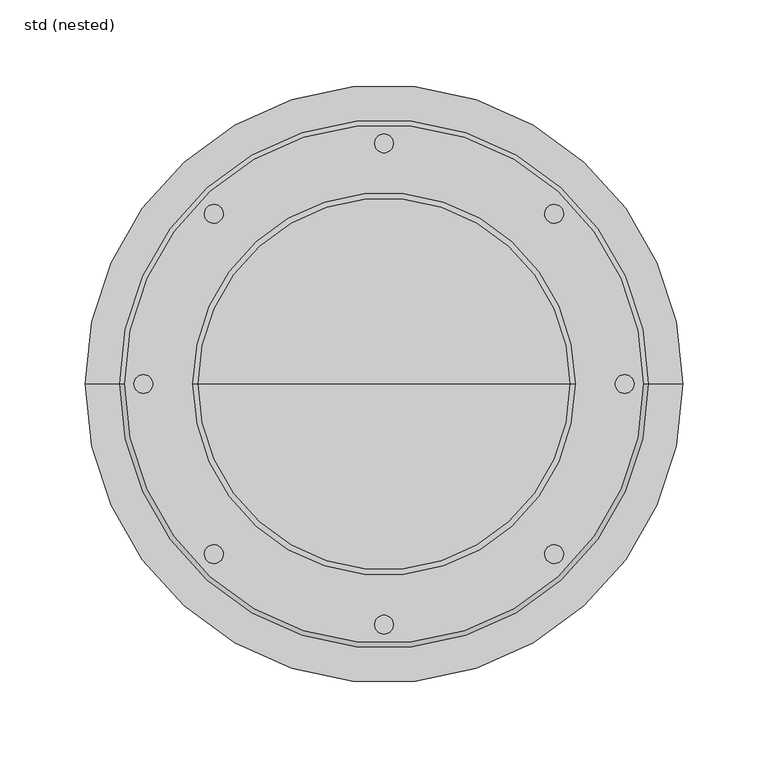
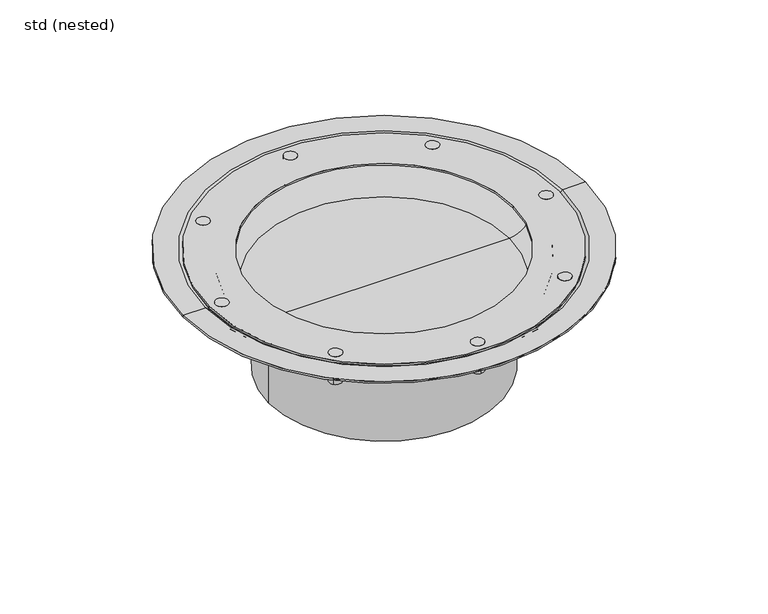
"""IFC4 building model written with IfcOpenShell, lengths in millimetres: sanitary terminal geometry, ZZZ_do not use_PF_GEN_UN_round telescopic gully top_ACO : std (nested)."""

from ifc_helpers import new_model, si_unit, point, frame, frame_2d, origin, origin_2d, place, context, project, spatial, polyline, circle_curve, ellipse_curve, trimmed, segment, composite_curve, outline, extrude, source, transform, mapped, element, save
from ifc_brep_helpers import plane_surface, cylinder_surface, revolved_surface, advanced_brep


def std_nested_45a2f4f4(model_context):
    return source(origin(), model_context, "Body", "SolidModel", [
        extrude(outline(composite_curve([segment(trimmed(circle_curve(frame_2d((-99.7020561, -99.7020561)), 5.5), [point((-103.5911434, -103.5911434))], [point((-95.8129689, -95.8129689))], False, "CARTESIAN"), True, "CONTINUOUS"), segment(trimmed(circle_curve(frame_2d((-99.7020561, -99.7020561)), 5.5), [point((-95.8129689, -95.8129689))], [point((-103.5911434, -103.5911434))], False, "CARTESIAN"), True, "CONTINUOUS")], self_intersect=False)), frame((0.0, 0.0, -25.7), z_axis=(0.0, 0.0, 1.0), x_axis=(1.0, 0.0, 0.0)), (0.0, 0.0, 1.0), 25.7),
        extrude(outline(composite_curve([segment(trimmed(circle_curve(frame_2d((-141.0, 0.0)), 5.5), [point((-146.5, 0.0))], [point((-135.5, 0.0))], False, "CARTESIAN"), True, "CONTINUOUS"), segment(trimmed(circle_curve(frame_2d((-141.0, 0.0)), 5.5), [point((-135.5, 0.0))], [point((-146.5, 0.0))], False, "CARTESIAN"), True, "CONTINUOUS")], self_intersect=False)), frame((0.0, 0.0, -25.7), z_axis=(0.0, 0.0, 1.0), x_axis=(1.0, 0.0, 0.0)), (0.0, 0.0, 1.0), 25.7),
        extrude(outline(composite_curve([segment(trimmed(circle_curve(frame_2d((-99.7020561, 99.7020561)), 5.5), [point((-103.5911434, 103.5911434))], [point((-95.8129689, 95.8129689))], False, "CARTESIAN"), True, "CONTINUOUS"), segment(trimmed(circle_curve(frame_2d((-99.7020561, 99.7020561)), 5.5), [point((-95.8129689, 95.8129689))], [point((-103.5911434, 103.5911434))], False, "CARTESIAN"), True, "CONTINUOUS")], self_intersect=False)), frame((0.0, 0.0, -25.7), z_axis=(0.0, 0.0, 1.0), x_axis=(1.0, 0.0, 0.0)), (0.0, 0.0, 1.0), 25.7),
        extrude(outline(composite_curve([segment(trimmed(circle_curve(frame_2d((0.0, 141.0)), 5.5), [point((0.0, 146.5))], [point((0.0, 135.5))], False, "CARTESIAN"), True, "CONTINUOUS"), segment(trimmed(circle_curve(frame_2d((0.0, 141.0)), 5.5), [point((0.0, 135.5))], [point((0.0, 146.5))], False, "CARTESIAN"), True, "CONTINUOUS")], self_intersect=False)), frame((0.0, 0.0, -25.7), z_axis=(0.0, 0.0, 1.0), x_axis=(1.0, 0.0, 0.0)), (0.0, 0.0, 1.0), 25.7),
        extrude(outline(composite_curve([segment(trimmed(circle_curve(frame_2d((99.7020561, 99.7020561)), 5.5), [point((103.5911434, 103.5911434))], [point((95.8129689, 95.8129689))], False, "CARTESIAN"), True, "CONTINUOUS"), segment(trimmed(circle_curve(frame_2d((99.7020561, 99.7020561)), 5.5), [point((95.8129689, 95.8129689))], [point((103.5911434, 103.5911434))], False, "CARTESIAN"), True, "CONTINUOUS")], self_intersect=False)), frame((0.0, 0.0, -25.7), z_axis=(0.0, 0.0, 1.0), x_axis=(1.0, 0.0, 0.0)), (0.0, 0.0, 1.0), 25.7),
        extrude(outline(composite_curve([segment(trimmed(circle_curve(frame_2d((141.0, 0.0)), 5.5), [point((146.5, 0.0))], [point((135.5, 0.0))], False, "CARTESIAN"), True, "CONTINUOUS"), segment(trimmed(circle_curve(frame_2d((141.0, 0.0)), 5.5), [point((135.5, 0.0))], [point((146.5, 0.0))], False, "CARTESIAN"), True, "CONTINUOUS")], self_intersect=False)), frame((0.0, 0.0, -25.7), z_axis=(0.0, 0.0, 1.0), x_axis=(1.0, 0.0, 0.0)), (0.0, 0.0, 1.0), 25.7),
        extrude(outline(composite_curve([segment(trimmed(circle_curve(frame_2d((99.7020561, -99.7020561)), 5.5), [point((103.5911434, -103.5911434))], [point((95.8129689, -95.8129689))], False, "CARTESIAN"), True, "CONTINUOUS"), segment(trimmed(circle_curve(frame_2d((99.7020561, -99.7020561)), 5.5), [point((95.8129689, -95.8129689))], [point((103.5911434, -103.5911434))], False, "CARTESIAN"), True, "CONTINUOUS")], self_intersect=False)), frame((0.0, 0.0, -25.7), z_axis=(0.0, 0.0, 1.0), x_axis=(1.0, 0.0, 0.0)), (0.0, 0.0, 1.0), 25.7),
        extrude(outline(composite_curve([segment(trimmed(circle_curve(frame_2d((0.0, -141.0)), 5.5), [point((0.0, -146.5))], [point((0.0, -135.5))], False, "CARTESIAN"), True, "CONTINUOUS"), segment(trimmed(circle_curve(frame_2d((0.0, -141.0)), 5.5), [point((0.0, -135.5))], [point((0.0, -146.5))], False, "CARTESIAN"), True, "CONTINUOUS")], self_intersect=False)), frame((0.0, 0.0, -25.7), z_axis=(0.0, 0.0, 1.0), x_axis=(1.0, 0.0, 0.0)), (0.0, 0.0, 1.0), 25.7),
        advanced_brep(
        [(175.0, 0.0, -1.5), (-175.0, 0.0, -1.5), (-175.0, 0.0, 0.0), (175.0, 0.0, 0.0), (155.5, 0.0, -1.5), (-155.5, 0.0, -1.5), (151.5, 0.0, -5.5), (-151.5, 0.0, -5.5), (128.75, 0.0, -5.5), (-128.75, 0.0, -5.5), (128.75, 0.0, -10.0), (-128.75, 0.0, -10.0), (108.75, 0.0, -30.0), (-108.75, 0.0, -30.0), (100.25, 0.0, -30.0), (-100.25, 0.0, -30.0), (108.75, 0.0, -28.5), (-108.75, 0.0, -28.5), (0.0, 0.0, -28.5), (127.25, 0.0, -10.0), (-127.25, 0.0, -10.0), (127.25, 0.0, -4.0), (-127.25, 0.0, -4.0), (150.8786797, 0.0, -4.0), (-150.8786797, 0.0, -4.0), (154.8786797, 0.0, 0.0), (-154.8786797, 0.0, 0.0), (-100.25, 0.0, -41.5), (100.25, 0.0, -41.5)],
        [
            (0, 1, circle_curve(frame((0.0, 0.0, -1.5), z_axis=(0.0, 0.0, 1.0), x_axis=(-1.0, 0.0, 0.0)), 175.0)),
            (1, 2),
            (2, 3, circle_curve(frame((0.0, 0.0, 0.0), z_axis=(0.0, 0.0, -1.0), x_axis=(-1.0, 0.0, 0.0)), 175.0)),
            (3, 0),
            (1, 0, circle_curve(frame((0.0, 0.0, -1.5), z_axis=(0.0, 0.0, 1.0), x_axis=(-1.0, 0.0, 0.0)), 175.0)),
            (3, 2, circle_curve(frame((0.0, 0.0, 0.0), z_axis=(0.0, 0.0, -1.0), x_axis=(-1.0, 0.0, 0.0)), 175.0)),
            (0, 4),
            (4, 5, circle_curve(frame((0.0, 0.0, -1.5), z_axis=(0.0, 0.0, 1.0), x_axis=(-1.0, 0.0, 0.0)), 155.5)),
            (5, 1),
            (5, 4, circle_curve(frame((0.0, 0.0, -1.5), z_axis=(0.0, 0.0, 1.0), x_axis=(-1.0, 0.0, 0.0)), 155.5)),
            (4, 6),
            (6, 7, circle_curve(frame((0.0, 0.0, -5.5), z_axis=(0.0, 0.0, 1.0), x_axis=(-1.0, 0.0, 0.0)), 151.5)),
            (7, 5),
            (7, 6, circle_curve(frame((0.0, 0.0, -5.5), z_axis=(0.0, 0.0, 1.0), x_axis=(-1.0, 0.0, 0.0)), 151.5)),
            (6, 8),
            (8, 9, circle_curve(frame((0.0, 0.0, -5.5), z_axis=(0.0, 0.0, 1.0), x_axis=(-1.0, 0.0, 0.0)), 128.75)),
            (9, 7),
            (9, 8, circle_curve(frame((0.0, 0.0, -5.5), z_axis=(0.0, 0.0, 1.0), x_axis=(-1.0, 0.0, 0.0)), 128.75)),
            (8, 10),
            (10, 11, circle_curve(frame((0.0, 0.0, -10.0), z_axis=(0.0, 0.0, 1.0), x_axis=(-1.0, 0.0, 0.0)), 128.75)),
            (11, 9),
            (11, 10, circle_curve(frame((0.0, 0.0, -10.0), z_axis=(0.0, 0.0, 1.0), x_axis=(-1.0, 0.0, 0.0)), 128.75)),
            (10, 12, circle_curve(frame((108.75, 0.0, -10.0), z_axis=(0.0, 1.0, 0.0), x_axis=(-1.0, 0.0, 0.0)), 20.0)),
            (12, 13, circle_curve(frame((0.0, 0.0, -30.0), z_axis=(0.0, 0.0, 1.0), x_axis=(-1.0, 0.0, 0.0)), 108.75)),
            (13, 11, circle_curve(frame((-108.75, 0.0, -10.0), z_axis=(0.0, 1.0, 0.0), x_axis=(1.0, 0.0, 0.0)), 20.0)),
            (13, 12, circle_curve(frame((0.0, 0.0, -30.0), z_axis=(0.0, 0.0, 1.0), x_axis=(-1.0, 0.0, 0.0)), 108.75)),
            (12, 14),
            (14, 15, circle_curve(frame((0.0, 0.0, -30.0), z_axis=(0.0, 0.0, 1.0), x_axis=(1.0, 0.0, 0.0)), 100.25)),
            (15, 13),
            (15, 14, circle_curve(frame((0.0, 0.0, -30.0), z_axis=(0.0, 0.0, 1.0), x_axis=(1.0, 0.0, 0.0)), 100.25)),
            (16, 17, circle_curve(frame((0.0, 0.0, -28.5), z_axis=(0.0, 0.0, 1.0), x_axis=(-1.0, 0.0, 0.0)), 108.75)),
            (17, 18),
            (18, 16),
            (17, 16, circle_curve(frame((0.0, 0.0, -28.5), z_axis=(0.0, 0.0, 1.0), x_axis=(-1.0, 0.0, 0.0)), 108.75)),
            (16, 19, circle_curve(frame((108.75, 0.0, -10.0), z_axis=(0.0, -1.0, 0.0), x_axis=(-1.0, 0.0, 0.0)), 18.5)),
            (19, 20, circle_curve(frame((0.0, 0.0, -10.0), z_axis=(0.0, 0.0, 1.0), x_axis=(-1.0, 0.0, 0.0)), 127.25)),
            (20, 17, circle_curve(frame((-108.75, 0.0, -10.0), z_axis=(0.0, -1.0, 0.0), x_axis=(1.0, 0.0, 0.0)), 18.5)),
            (20, 19, circle_curve(frame((0.0, 0.0, -10.0), z_axis=(0.0, 0.0, 1.0), x_axis=(-1.0, 0.0, 0.0)), 127.25)),
            (19, 21),
            (21, 22, circle_curve(frame((0.0, 0.0, -4.0), z_axis=(0.0, 0.0, 1.0), x_axis=(-1.0, 0.0, 0.0)), 127.25)),
            (22, 20),
            (22, 21, circle_curve(frame((0.0, 0.0, -4.0), z_axis=(0.0, 0.0, 1.0), x_axis=(-1.0, 0.0, 0.0)), 127.25)),
            (21, 23),
            (23, 24, circle_curve(frame((0.0, 0.0, -4.0), z_axis=(0.0, 0.0, 1.0), x_axis=(-1.0, 0.0, 0.0)), 150.8786797)),
            (24, 22),
            (24, 23, circle_curve(frame((0.0, 0.0, -4.0), z_axis=(0.0, 0.0, 1.0), x_axis=(-1.0, 0.0, 0.0)), 150.8786797)),
            (23, 25),
            (25, 26, circle_curve(frame((0.0, 0.0, 0.0), z_axis=(0.0, 0.0, 1.0), x_axis=(-1.0, 0.0, 0.0)), 154.8786797)),
            (26, 24),
            (26, 25, circle_curve(frame((0.0, 0.0, 0.0), z_axis=(0.0, 0.0, 1.0), x_axis=(-1.0, 0.0, 0.0)), 154.8786797)),
            (2, 26),
            (25, 3),
            (27, 28, circle_curve(frame((0.0, 0.0, -41.5), z_axis=(0.0, 0.0, -1.0), x_axis=(1.0, 0.0, 0.0)), 100.25)),
            (28, 27, circle_curve(frame((0.0, 0.0, -41.5), z_axis=(0.0, 0.0, -1.0), x_axis=(1.0, 0.0, 0.0)), 100.25)),
            (28, 14),
            (15, 27),
        ],
        [
            cylinder_surface(frame((0.0, 0.0, 260.0), z_axis=(0.0, 0.0, -1.0), x_axis=(-1.0, 0.0, 0.0)), 175.0),
            plane_surface(frame((0.0, 0.0, -1.5), z_axis=(0.0, 0.0, -1.0), x_axis=(-1.0, 0.0, 0.0))),
            revolved_surface(polyline([(-155.5, 0.0, -1.5), (-151.5, 0.0, -5.5)]), (0.0, 0.0, 260.0), (0.0, 0.0, -1.0)),
            plane_surface(frame((0.0, 0.0, -5.5), z_axis=(0.0, 0.0, -1.0), x_axis=(-1.0, 0.0, 0.0))),
            cylinder_surface(frame((0.0, 0.0, 260.0), z_axis=(0.0, 0.0, -1.0), x_axis=(-1.0, 0.0, 0.0)), 128.75),
            revolved_surface(trimmed(ellipse_curve(frame((-108.75, 0.0, -10.0), z_axis=(0.0, -1.0, 0.0), x_axis=(1.0, 0.0, 0.0)), 20.0, 20.0), [point((-128.75, 0.0, -10.0))], [point((-108.75, 0.0, -30.0))], True, "CARTESIAN"), (0.0, 0.0, 260.0), (0.0, 0.0, -1.0)),
            plane_surface(frame((0.0, 0.0, -30.0), z_axis=(0.0, 0.0, -1.0), x_axis=(-1.0, 0.0, 0.0))),
            plane_surface(frame((0.0, 0.0, -28.5), z_axis=(0.0, 0.0, 1.0), x_axis=(-1.0, 0.0, 0.0))),
            revolved_surface(trimmed(ellipse_curve(frame((-108.75, 0.0, -10.0), z_axis=(0.0, 1.0, 0.0), x_axis=(1.0, 0.0, 0.0)), 18.5, 18.5), [point((-108.75, 0.0, -28.5))], [point((-127.25, 0.0, -10.0))], True, "CARTESIAN"), (0.0, 0.0, 260.0), (0.0, 0.0, -1.0)),
            revolved_surface(polyline([(-127.25, 0.0, -10.0), (-127.25, 0.0, -4.0)]), (0.0, 0.0, 260.0), (0.0, 0.0, -1.0)),
            plane_surface(frame((0.0, 0.0, -4.0), z_axis=(0.0, 0.0, 1.0), x_axis=(-1.0, 0.0, 0.0))),
            revolved_surface(polyline([(-150.8786797, 0.0, -4.0), (-154.8786797, 0.0, 0.0)]), (0.0, 0.0, 260.0), (0.0, 0.0, -1.0)),
            plane_surface(frame((0.0, 0.0, 0.0), z_axis=(0.0, 0.0, 1.0), x_axis=(-1.0, 0.0, 0.0))),
            plane_surface(frame((100.25, 0.0, -41.5), z_axis=(0.0, 0.0, -1.0), x_axis=(0.0, -1.0, 0.0))),
            cylinder_surface(frame((0.0, 0.0, -41.5), z_axis=(0.0, 0.0, 1.0), x_axis=(1.0, 0.0, 0.0)), 100.25),
        ],
        [
            (0, [[1, 2, 3, 4]]),
            (0, [[-2, 5, -4, 6]]),
            (1, [[-1, 7, 8, 9]]),
            (1, [[-5, -9, 10, -7]]),
            (2, [[-8, 11, 12, 13]]),
            (2, [[-10, -13, 14, -11]]),
            (3, [[-12, 15, 16, 17]]),
            (3, [[-14, -17, 18, -15]]),
            (4, [[-16, 19, 20, 21]]),
            (4, [[-18, -21, 22, -19]]),
            (5, [[-20, 23, 24, 25]]),
            (5, [[-22, -25, 26, -23]]),
            (6, [[-24, 27, 28, 29]]),
            (6, [[-26, -29, 30, -27]]),
            (7, [[31, 32, 33]]),
            (7, [[-32, 34, -33]]),
            (8, [[-31, 35, 36, 37]]),
            (8, [[-34, -37, 38, -35]]),
            (9, [[-36, 39, 40, 41]]),
            (9, [[-38, -41, 42, -39]]),
            (10, [[-40, 43, 44, 45]]),
            (10, [[-42, -45, 46, -43]]),
            (11, [[-44, 47, 48, 49]]),
            (11, [[-46, -49, 50, -47]]),
            (12, [[-3, 51, -48, 52]]),
            (12, [[-6, -52, -50, -51]]),
            (13, [[53, 54]]),
            (14, [[-54, 55, -30, 56]]),
            (14, [[-53, -56, -28, -55]]),
        ],
    ),
        extrude(outline(composite_curve([segment(trimmed(circle_curve(origin_2d(), 152.0), [point((-152.0, 0.0))], [point((152.0, 0.0))], False, "CARTESIAN"), True, "CONTINUOUS"), segment(trimmed(circle_curve(origin_2d(), 152.0), [point((152.0, 0.0))], [point((-152.0, 0.0))], False, "CARTESIAN"), True, "CONTINUOUS")], self_intersect=False), holes=[composite_curve([segment(trimmed(circle_curve(origin_2d(), 112.0), [point((-112.0, 0.0))], [point((112.0, 0.0))], True, "CARTESIAN"), True, "CONTINUOUS"), segment(trimmed(circle_curve(origin_2d(), 112.0), [point((112.0, 0.0))], [point((-112.0, 0.0))], True, "CARTESIAN"), True, "CONTINUOUS")], self_intersect=False)]), frame((0.0, 0.0, -1.5), z_axis=(0.0, 0.0, 1.0), x_axis=(1.0, 0.0, 0.0)), (0.0, 0.0, 1.0), 1.5),
        extrude(outline(composite_curve([segment(trimmed(circle_curve(origin_2d(), 100.0), [point((-100.0, 0.0))], [point((100.0, 0.0))], False, "CARTESIAN"), True, "CONTINUOUS"), segment(trimmed(circle_curve(origin_2d(), 100.0), [point((100.0, 0.0))], [point((-100.0, 0.0))], False, "CARTESIAN"), True, "CONTINUOUS")], self_intersect=False)), frame((0.0, 0.0, -107.0), z_axis=(0.0, 0.0, 1.0), x_axis=(1.0, 0.0, 0.0)), (0.0, 0.0, 1.0), 65.5),
    ])


if __name__ == "__main__":
    model = new_model("IFC4")
    model_context = context("Model", 3, world=origin())
    ifc_project = project(units=[si_unit("LENGTHUNIT", "METRE", prefix="MILLI")], contexts=[model_context])
    site = spatial("IfcSite", under=ifc_project)
    building = spatial("IfcBuilding", under=site)
    placement = place(None, origin())
    std_nested_shape = std_nested_45a2f4f4(model_context)
    element("IfcSanitaryTerminal", 1, ObjectType="ZZZ_do not use_PF_GEN_UN_round telescopic gully top_ACO : std (nested)", at=placement, inside=building, context=model_context, shape_type="MappedRepresentation", body=[
        mapped(std_nested_shape, transform((0.0, 0.0, 0.0), x_axis=(1.0, 0.0, 0.0), y_axis=(0.0, 1.0, 0.0), z_axis=(0.0, 0.0, 1.0))),
    ])
    save(model, "model.ifc")
